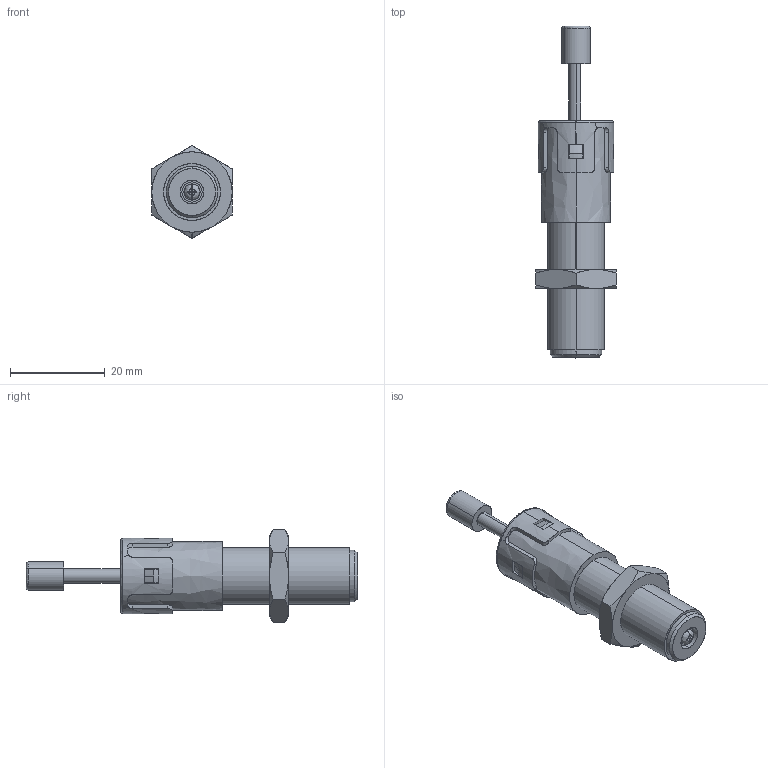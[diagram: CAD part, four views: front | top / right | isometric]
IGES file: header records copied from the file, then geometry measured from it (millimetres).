
Start section: SolidWorks IGES file using analytic representation for surfaces
Bounding box: 17 x 70.2 x 19.63 mm (x, y, z)
Surface area: 3720.5 mm2 (no closed solid volume)
Topology: 0 solids, 0 shells, 128 faces, 1604 edges, 1604 vertices
Faces by surface type: bspline 65, revolution 63
